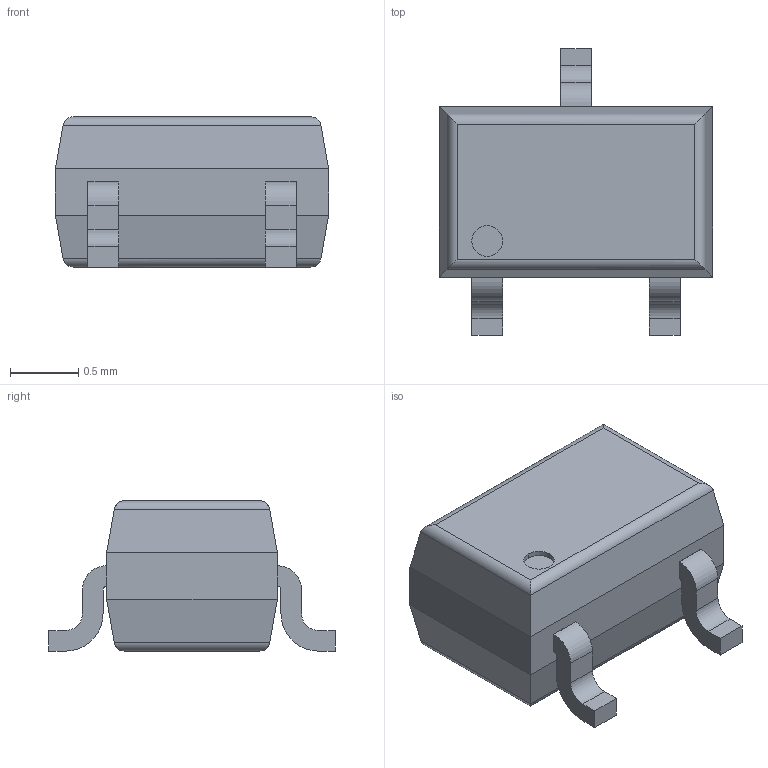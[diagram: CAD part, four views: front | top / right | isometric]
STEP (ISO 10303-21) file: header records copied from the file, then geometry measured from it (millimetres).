
FILE_DESCRIPTION (( 'STEP AP214' ), '1' );
FILE_NAME ( 'SOT23-3P65_210X110L36X22.STEP', '2021-10-06T06:48:57', ( '' ), ( '' ), '', '©2017 PCB Libraries, Inc.', '' );
FILE_SCHEMA (( 'AUTOMOTIVE_DESIGN' ));
Length unit declared in the file: millimetre
Products named in the file (1): SOT23-3P65_210X110L36X22
Bounding box: 2 x 2.1 x 1.1 mm (x, y, z)
Volume: 2.7 mm3; surface area: 12.9 mm2
Topology: 4 solids, 4 shells, 67 faces, 158 edges, 100 vertices
Faces by surface type: plane 45, cylinder 22
Entity records: 2037 total; most frequent: CARTESIAN_POINT 350, ORIENTED_EDGE 316, DIRECTION 314, EDGE_CURVE 158, VECTOR 122, LINE 122, VERTEX_POINT 100, AXIS2_PLACEMENT_3D 96
